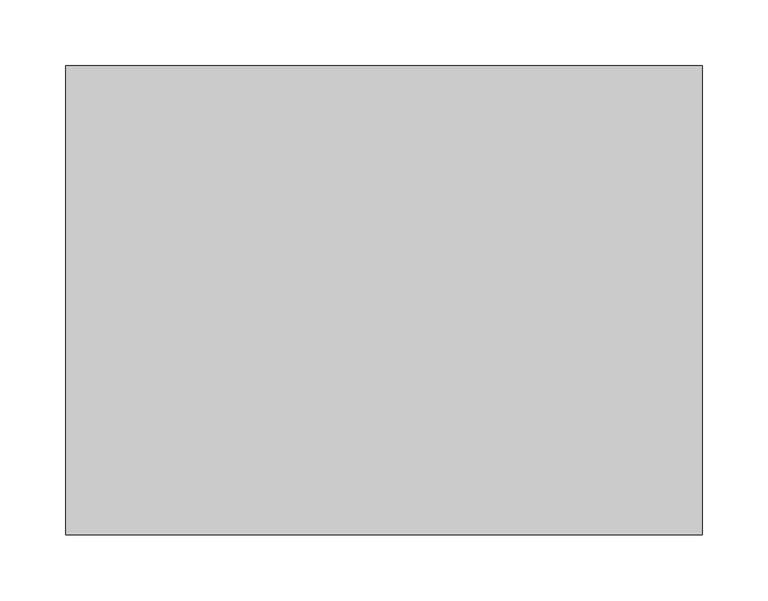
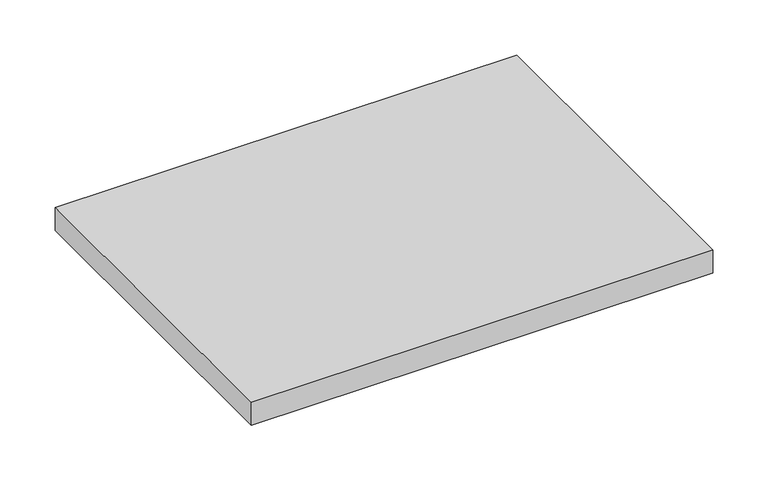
"""IFC4 building model written with IfcOpenShell, lengths in millimetres: furniture geometry."""

import ifcopenshell
import ifcopenshell.guid

model = None  # the IFC model being written
_history = None  # IfcOwnerHistory: only IFC2X3 demands one
_inside = {}  # id of a spatial element -> (the spatial element, [elements in it])
_under = {}  # id of a project, library or spatial element -> (it, [spatial elements below it])
_declared = {}  # id of a project -> (the project, [libraries it declares])
_typed = {}  # id of a type object -> (the type object, [elements of that type])
_made_of = {}  # id of a material, layer set ... -> (it, [elements and type objects made of it])


def new_model(schema):
    """Start an empty IFC model of exactly this schema.

    Asked for "IFC4X3", IfcOpenShell would pick the latest addendum, in which some entities
    have other attributes; the version numbers below select the first issue.
    IFC2X3 requires an IfcOwnerHistory on every rooted entity: one is made here for all.
    """
    global model, _history
    if schema == "IFC4X3":
        model = ifcopenshell.file(schema_version=(4, 3, 0, 0))
    else:
        model = ifcopenshell.file(schema=schema)
    _inside.clear()
    _under.clear()
    _declared.clear()
    _typed.clear()
    _made_of.clear()
    _history = None
    if model.schema == "IFC2X3":
        org = make("IfcOrganization", Name="unknown")
        user = make(
            "IfcPersonAndOrganization",
            ThePerson=make("IfcPerson", FamilyName="unknown"),
            TheOrganization=org,
        )
        app = make(
            "IfcApplication",
            ApplicationDeveloper=org,
            Version="unknown",
            ApplicationFullName="unknown",
            ApplicationIdentifier="unknown",
        )
        _history = make(
            "IfcOwnerHistory",
            OwningUser=user,
            OwningApplication=app,
            ChangeAction="ADDED",
            CreationDate=0,
        )
    return model


def make(cls, **values):
    """One entity of the class cls with the attributes given. An attribute that is None is left unset."""
    return model.create_entity(
        cls, **{name: value for name, value in values.items() if value is not None}
    )


def rooted(cls, **values):
    """An entity with a GlobalId (a new one), such as an element, a storey or a relation."""
    return make(cls, GlobalId=ifcopenshell.guid.new(), OwnerHistory=_history, **values)


def si_unit(unit_type, name, prefix=None):
    """IfcSIUnit, for example si_unit("LENGTHUNIT", "METRE", prefix="MILLI")."""
    return make("IfcSIUnit", UnitType=unit_type, Prefix=prefix, Name=name)


def assignment(units):
    """IfcUnitAssignment: the units of a project."""
    return None if units is None else make("IfcUnitAssignment", Units=units)


def point(xyz):
    """IfcCartesianPoint."""
    return None if xyz is None else make("IfcCartesianPoint", Coordinates=xyz)


def direction(xyz):
    """IfcDirection."""
    return None if xyz is None else make("IfcDirection", DirectionRatios=xyz)


def frame(location, z_axis=None, x_axis=None):
    """IfcAxis2Placement3D, a coordinate frame: its origin and axes. An axis left out is left unset."""
    return make(
        "IfcAxis2Placement3D",
        Location=point(location),
        Axis=direction(z_axis),
        RefDirection=direction(x_axis),
    )


def origin():
    """The frame at (0, 0, 0) with its axes left unset."""
    return frame((0.0, 0.0, 0.0))


def place(relative_to, where):
    """IfcLocalPlacement: puts the frame where relative to a parent placement (None: the world)."""
    return make(
        "IfcLocalPlacement", PlacementRelTo=relative_to, RelativePlacement=where
    )


def context(
    kind, dimensions, precision=None, world=None, true_north=None, identifier=None
):
    """IfcGeometricRepresentationContext, for example the 3D "Model" context."""
    return make(
        "IfcGeometricRepresentationContext",
        ContextIdentifier=identifier,
        ContextType=kind,
        CoordinateSpaceDimension=dimensions,
        Precision=precision,
        WorldCoordinateSystem=world,
        TrueNorth=true_north,
    )


def project(units=None, contexts=None):
    """IfcProject with its units and contexts."""
    return rooted(
        "IfcProject",
        Name="project",
        RepresentationContexts=contexts,
        UnitsInContext=assignment(units),
    )


def spatial(cls, under=None, at=None, **own):
    """A site, building, storey or space (cls), placed at a placement, below another one or the project."""
    s = rooted(cls, ObjectPlacement=at, **own)
    if under is not None:
        _under.setdefault(under.id(), (under, []))[1].append(s)
    return s


def polyline(points):
    """IfcPolyline through the points."""
    return make("IfcPolyline", Points=[point(p) for p in points])


def outline(outer, holes=None, kind="AREA"):
    """IfcArbitraryClosedProfileDef: a profile drawn as a closed curve; with holes, ...WithVoids."""
    if holes is None:
        return make("IfcArbitraryClosedProfileDef", ProfileType=kind, OuterCurve=outer)
    return make(
        "IfcArbitraryProfileDefWithVoids",
        ProfileType=kind,
        OuterCurve=outer,
        InnerCurves=holes,
    )


def extrude(swept, where, along, depth):
    """IfcExtrudedAreaSolid: the profile swept, set in the frame where, extruded along a direction by depth."""
    return make(
        "IfcExtrudedAreaSolid",
        SweptArea=swept,
        Position=where,
        ExtrudedDirection=direction(along),
        Depth=depth,
    )


def shape(context_of_items, identifier, shape_type, items):
    """IfcShapeRepresentation: the items that make up one representation, for example the "Body"."""
    return make(
        "IfcShapeRepresentation",
        ContextOfItems=context_of_items,
        RepresentationIdentifier=identifier,
        RepresentationType=shape_type,
        Items=items,
    )


def source(mapping_origin, context_of_items, identifier, shape_type, items):
    """IfcRepresentationMap: a shape defined once, which mapped items show again and again."""
    return make(
        "IfcRepresentationMap",
        MappingOrigin=mapping_origin,
        MappedRepresentation=shape(context_of_items, identifier, shape_type, items),
    )


def transform(
    local_origin,
    x_axis=None,
    y_axis=None,
    z_axis=None,
    scale=None,
    scale2=None,
    scale3=None,
    uniform=True,
):
    """IfcCartesianTransformationOperator3D, or its non-uniform kind. x_axis, y_axis, z_axis: its Axis1, 2, 3."""
    if uniform:
        return make(
            "IfcCartesianTransformationOperator3D",
            Axis1=direction(x_axis),
            Axis2=direction(y_axis),
            LocalOrigin=point(local_origin),
            Scale=scale,
            Axis3=direction(z_axis),
        )
    return make(
        "IfcCartesianTransformationOperator3DnonUniform",
        Axis1=direction(x_axis),
        Axis2=direction(y_axis),
        LocalOrigin=point(local_origin),
        Scale=scale,
        Axis3=direction(z_axis),
        Scale2=scale2,
        Scale3=scale3,
    )


def mapped(mapping_source, mapping_target):
    """IfcMappedItem: shows the shape of a source again, moved by a transform."""
    return make(
        "IfcMappedItem", MappingSource=mapping_source, MappingTarget=mapping_target
    )


def made_of(thing, what):
    """Note that an element or type object is made of a material, layer set ...; save() writes the relation."""
    if what is not None:
        _made_of.setdefault(what.id(), (what, []))[1].append(thing)
    return thing


def element(
    cls,
    number,
    at=None,
    inside=None,
    cuts=None,
    type_object=None,
    material=None,
    context=None,
    identifier="Body",
    shape_type=None,
    held_by="IfcProductDefinitionShape",
    body=None,
    shapes=None,
    **own,
):
    """One element of the class cls, such as IfcWall. Its Tag is "e" and its number.

    at: its placement. inside: the storey or other place that contains it. cuts: it is an
    opening in that element (IfcRelVoidsElement). A single representation is given by context,
    identifier, shape_type and body (its items); several are given by shapes. held_by: the class
    of the entity that holds the representations. save() writes the other relations.
    """
    e = rooted(cls, Tag="e%d" % number, ObjectPlacement=at, **own)
    if body is not None:
        shapes = [shape(context, identifier, shape_type, body)]
    if shapes is not None:
        e.Representation = make(held_by, Representations=shapes)
    if inside is not None:
        _inside.setdefault(inside.id(), (inside, []))[1].append(e)
    if cuts is not None:
        rooted(
            "IfcRelVoidsElement", RelatingBuildingElement=cuts, RelatedOpeningElement=e
        )
    if type_object is not None:
        _typed.setdefault(type_object.id(), (type_object, []))[1].append(e)
    return made_of(e, material)


def aggregate(whole, parts):
    """IfcRelAggregates: a whole, such as a stair, and the parts it consists of."""
    return rooted("IfcRelAggregates", RelatingObject=whole, RelatedObjects=parts)


def save(model, path):
    """Write the relations noted so far, then the file.

    IfcRelAggregates (storeys below a building ...), IfcRelContainedInSpatialStructure (elements
    in a storey), IfcRelDefinesByType, IfcRelAssociatesMaterial and IfcRelDeclares: one each for
    every whole, place, type object, material and project.
    """
    for whole, parts in _under.values():
        aggregate(whole, parts)
    for where, things in _inside.values():
        rooted(
            "IfcRelContainedInSpatialStructure",
            RelatedElements=things,
            RelatingStructure=where,
        )
    for kind, things in _typed.values():
        rooted("IfcRelDefinesByType", RelatedObjects=things, RelatingType=kind)
    for what, things in _made_of.values():
        rooted("IfcRelAssociatesMaterial", RelatedObjects=things, RelatingMaterial=what)
    for by, libraries in _declared.values():
        rooted("IfcRelDeclares", RelatingContext=by, RelatedDefinitions=libraries)
    model.write(path)


def furniture_e18d46ed(model_context):
    return source(origin(), model_context, "Body", "SweptSolid", [
        extrude(outline(polyline([(241.3673483, -177.8), (-241.2326517, -177.8), (-241.2326517, 177.8), (241.3673483, 177.8), (241.3673483, -177.8)])), frame((0.0, 0.0, 1535.90752), z_axis=(0.0, 0.0, 1.0), x_axis=(1.0, 0.0, 0.0)), (0.0, 0.0, 1.0), 25.4),
    ])


if __name__ == "__main__":
    model = new_model("IFC4")
    model_context = context("Model", 3, world=origin())
    ifc_project = project(units=[si_unit("LENGTHUNIT", "METRE", prefix="MILLI")], contexts=[model_context])
    site = spatial("IfcSite", under=ifc_project)
    building = spatial("IfcBuilding", under=site)
    placement = place(None, origin())
    furniture_shape = furniture_e18d46ed(model_context)
    element("IfcFurniture", 1, ObjectType="HermanMiller_CoStruc_CO566_Cassette Cover : 1\"H x 14\"D x 19\"W", at=placement, inside=building, context=model_context, shape_type="MappedRepresentation", body=[
        mapped(furniture_shape, transform((0.0, 0.0, 0.0), x_axis=(1.0, 0.0, 0.0), y_axis=(0.0, 1.0, 0.0), z_axis=(0.0, 0.0, 1.0))),
    ])
    save(model, "model.ifc")
